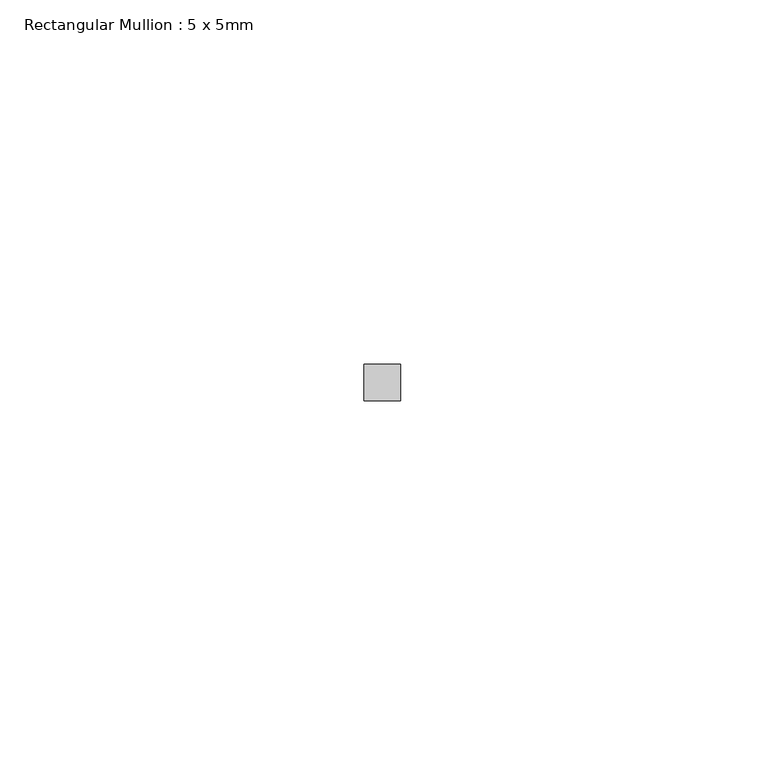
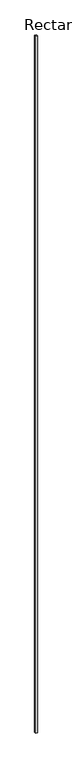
"""IFC4 building model written with IfcOpenShell, lengths in millimetres: member geometry, Rectangular Mullion : 5 x 5mm."""

from ifc_helpers import new_model, si_unit, frame, origin, place, context, project, spatial, polyline, outline, extrude, source, transform, mapped, element, save


def rectangular_mullion_5_x_5mm_3b9e5684(model_context):
    return source(origin(), model_context, "Body", "SweptSolid", [
        extrude(outline(polyline([(0.0, 2.5), (0.0, -2.5), (-5.0, -2.5), (-5.0, 2.5), (0.0, 2.5)])), frame((0.0, 0.0, -2214.2166549), z_axis=(0.0, 0.0, 1.0), x_axis=(1.0, 0.0, 0.0)), (0.0, 0.0, 1.0), 2214.2166549),
    ])


if __name__ == "__main__":
    model = new_model("IFC4")
    model_context = context("Model", 3, world=origin())
    ifc_project = project(units=[si_unit("LENGTHUNIT", "METRE", prefix="MILLI")], contexts=[model_context])
    site = spatial("IfcSite", under=ifc_project)
    building = spatial("IfcBuilding", under=site)
    placement = place(None, origin())
    rectangular_mullion_5_x_5mm_shape = rectangular_mullion_5_x_5mm_3b9e5684(model_context)
    element("IfcMember", 1, ObjectType="Rectangular Mullion : 5 x 5mm", at=placement, inside=building, context=model_context, shape_type="MappedRepresentation", body=[
        mapped(rectangular_mullion_5_x_5mm_shape, transform((0.0, 0.0, 0.0), x_axis=(1.0, 0.0, 0.0), y_axis=(0.0, 1.0, 0.0), z_axis=(0.0, 0.0, 1.0))),
    ])
    save(model, "model.ifc")
